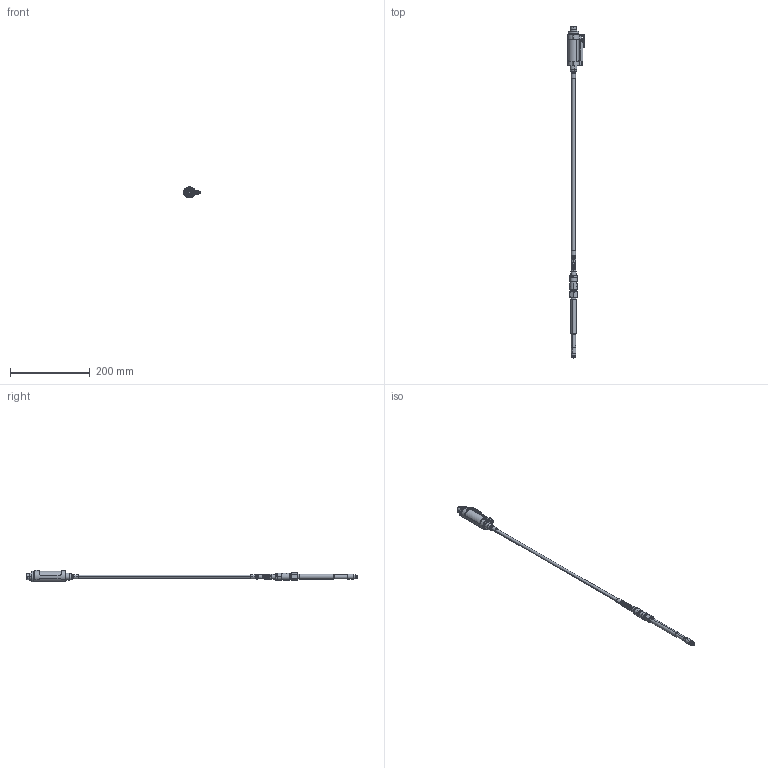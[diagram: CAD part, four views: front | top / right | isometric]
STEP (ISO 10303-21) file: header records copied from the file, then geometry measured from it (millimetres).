
FILE_DESCRIPTION (( 'STEP AP203' ), '1' );
FILE_NAME ('IE1-M.STEP', '2007-12-06T15:28:46', ( 'User' ), ( 'Gefran S.p.a.' ), 'SwSTEP 2.0', 'SolidWorks 2007', '' );
FILE_SCHEMA (( 'CONFIG_CONTROL_DESIGN' ));
Products named in the file (21): PKIT312x; PKIT309x; CON301x; TAPxxx  veamx; CON905x; PKIT751x; FLX501x; IE1-M; NIP250Hx; PUN050Hx; MEM701Cx; NIP258x_Revisione_2; PKIT310x; PKIT311x; MGN005x; STE070x; NIP253x; CUSxxx L=78.5x_Custodia x pin verticali; NIP259x; NIP260x; CON906x
Assembly tree (20 placements, depth 3):
  IE1-M
    FLX501x
    CON906x
    CON301x
    PKIT309x
    NIP259x
    PKIT312x
      PKIT310x
      PKIT311x
      MGN005x
    NIP253x
    STE070x
    PKIT751x
      MEM701Cx
      NIP250Hx
      PUN050Hx
    TAPxxx  veamx
    CON905x
    NIP258x_Revisione_2
    NIP260x
    CUSxxx L=78.5x_Custodia x pin verticali
Bounding box: 41.97 x 833.22 x 29.75 mm (x, y, z)
Volume: 60845.2 mm3; surface area: 79227.4 mm2
Topology: 22 solids, 28 shells, 2309 faces, 5533 edges, 3257 vertices
Faces by surface type: bspline 910, cylinder 667, plane 515, cone 165, torus 52
Entity records: 86875 total; most frequent: CARTESIAN_POINT 38057, ORIENTED_EDGE 10836, DIRECTION 8275, EDGE_CURVE 5426, AXIS2_PLACEMENT_3D 3298, VERTEX_POINT 3257, EDGE_LOOP 2439, FACE_OUTER_BOUND 2309
